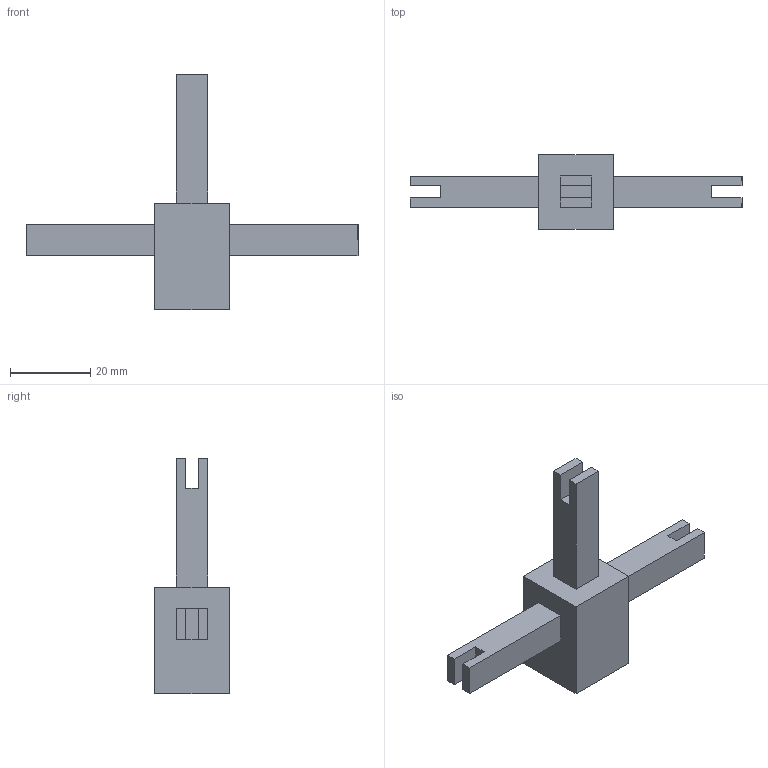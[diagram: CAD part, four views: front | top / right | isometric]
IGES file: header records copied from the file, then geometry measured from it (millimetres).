
Start section: Data from Parasolid IGES Translator 20.0.26, Copyright(c) 2006 Siemens P LM Software. All Rights Reserved.
Global section: file name: 9298827.igs; native system: By Siemens PLM Incorporated; preprocessor: XPlus GENERIC/IGES 20.0.26; author: Noname; organization: Noname; date: 20210831.145755; units: millimetre
Bounding box: 82.5 x 18.5 x 58.5 mm (x, y, z)
Surface area: 5856.7 mm2 (no closed solid volume)
Topology: 0 solids, 0 shells, 33 faces, 168 edges, 168 vertices
Faces by surface type: extrusion 33
